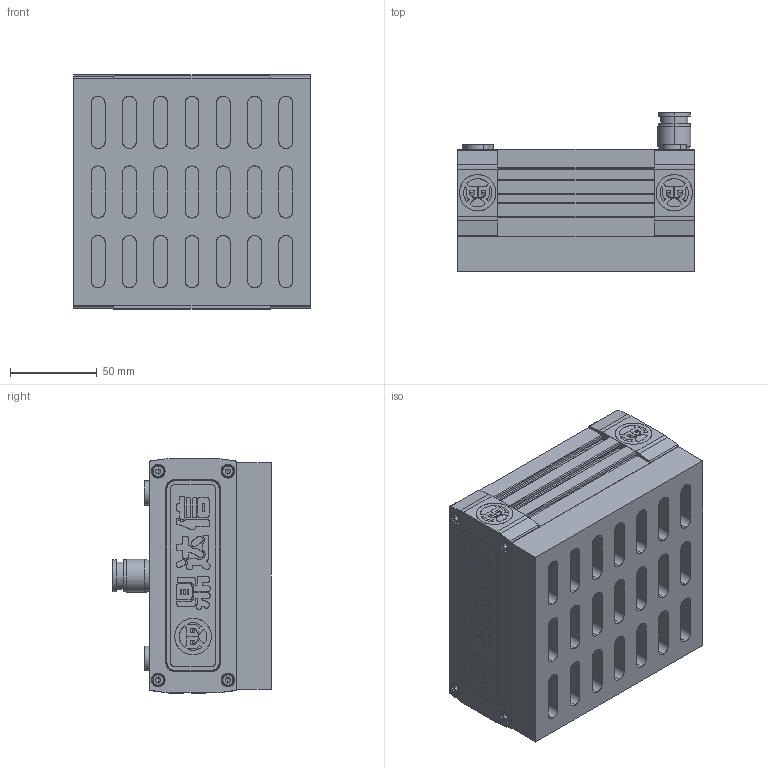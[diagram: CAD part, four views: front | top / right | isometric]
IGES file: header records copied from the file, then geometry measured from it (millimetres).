
Start section: SolidWorks IGES file using analytic representation for surfaces
Bounding box: 136 x 91.2 x 135 mm (x, y, z)
Surface area: 185217 mm2 (no closed solid volume)
Topology: 0 solids, 0 shells, 1487 faces, 19062 edges, 19046 vertices
Faces by surface type: bspline 1010, revolution 477
